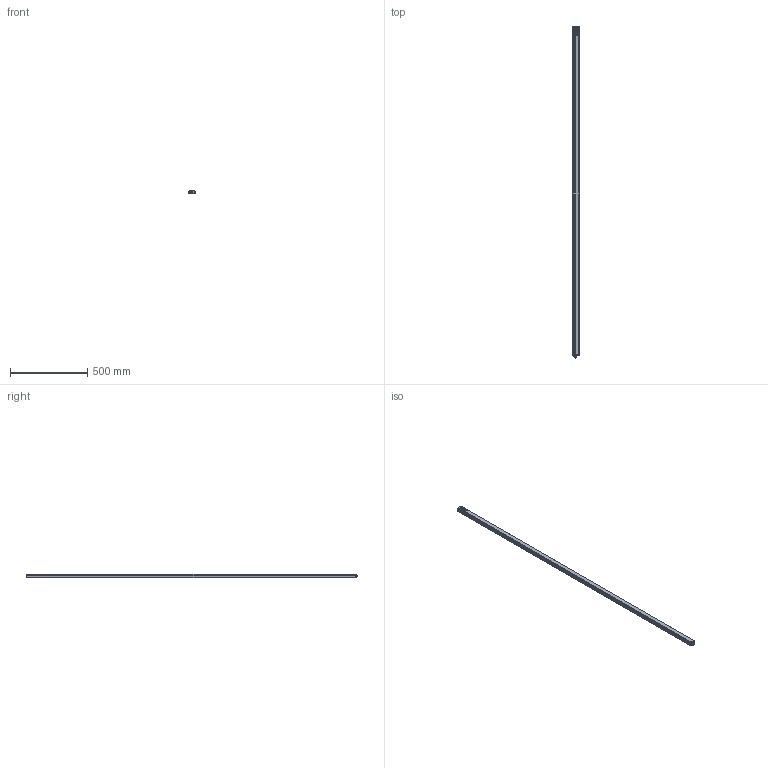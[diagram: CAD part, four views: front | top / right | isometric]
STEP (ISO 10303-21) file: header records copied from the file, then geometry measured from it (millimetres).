
FILE_DESCRIPTION(/* description */ (''),/* implementation_level */ '2;1');
FILE_NAME(/* name */ 'C:\Users\andre\SynologyDrive\Optoscan\Libreria Componenti\00 - Barriere\Polaris sorgente\Polaris_2120_TX.stp',/* time_stamp */ '2021-06-04T11:23:35+02:00',/* author */ ('andre'),/* organization */ (''),/* preprocessor_version */ 'ST-DEVELOPER v18',/* originating_system */ 'Autodesk Inventor 2020',/* authorisation */ '');
FILE_SCHEMA (('AUTOMOTIVE_DESIGN { 1 0 10303 214 3 1 1 }'));
Length unit declared in the file: millimetre
Products named in the file (1): Polaris_2120_TX
Bounding box: 40.5 x 2144.8 x 20.75 mm (x, y, z)
Volume: 421381 mm3; surface area: 557556.9 mm2
Topology: 1 solids, 1 shells, 744 faces, 2070 edges, 1333 vertices
Faces by surface type: plane 334, cylinder 207, bspline 115, torus 74, cone 8, sphere 6
Full cylindrical faces by diameter (mm): 1 x8, 2.459 x4, 2.5 x4, 3 x4, 3.5 x4, 5.5 x4, 8 x1, 10.5 x2, 11.75 x9, 12 x1, 12.3 x2, 14.5 x1, 16.7 x1, 17.5 x1
Entity records: 30693 total; most frequent: CARTESIAN_POINT 11308, ORIENTED_EDGE 4126, DIRECTION 3589, EDGE_CURVE 2063, VERTEX_POINT 1334, AXIS2_PLACEMENT_3D 1263, LINE 1063, VECTOR 1063
